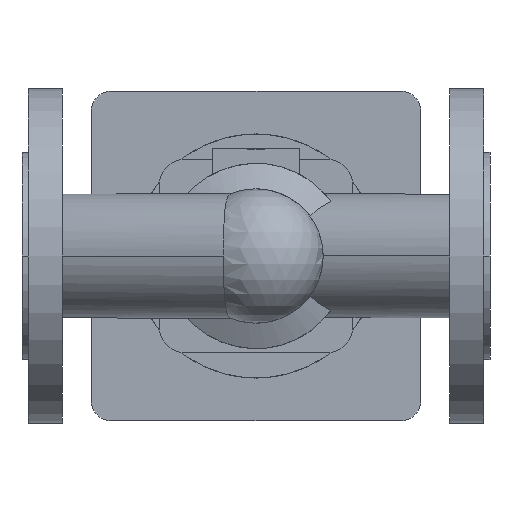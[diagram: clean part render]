
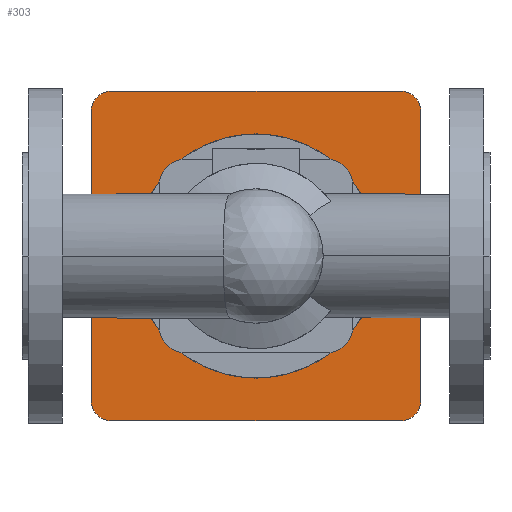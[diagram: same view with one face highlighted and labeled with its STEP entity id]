
A CAD part, front view. The second image highlights one B-rep face of the part: STEP entity #303.
In plain terms, the highlighted planar face has unit normal (0, -1, 0).
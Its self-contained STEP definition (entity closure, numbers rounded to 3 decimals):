
#303 = ADVANCED_FACE( '', ( #729, #730 ), #731, .F. );
#729 = FACE_OUTER_BOUND( '', #1181, .T. );
#730 = FACE_BOUND( '', #1182, .T. );
#731 = PLANE( '', #1183 );
#1181 = EDGE_LOOP( '', ( #2652, #2653, #2654, #2655, #2656, #2657, #2658, #2659 ) );
#1182 = EDGE_LOOP( '', ( #2660, #2661 ) );
#1183 = AXIS2_PLACEMENT_3D( '', #2662, #2663, #2664 );
#2652 = ORIENTED_EDGE( '', *, *, #3283, .F. );
#2653 = ORIENTED_EDGE( '', *, *, #3284, .F. );
#2654 = ORIENTED_EDGE( '', *, *, #3285, .F. );
#2655 = ORIENTED_EDGE( '', *, *, #3286, .F. );
#2656 = ORIENTED_EDGE( '', *, *, #3287, .F. );
#2657 = ORIENTED_EDGE( '', *, *, #3288, .F. );
#2658 = ORIENTED_EDGE( '', *, *, #3289, .F. );
#2659 = ORIENTED_EDGE( '', *, *, #3290, .F. );
#2660 = ORIENTED_EDGE( '', *, *, #3198, .F. );
#2661 = ORIENTED_EDGE( '', *, *, #3291, .F. );
#2662 = CARTESIAN_POINT( '', ( 115., 584., 0. ) );
#2663 = DIRECTION( '', ( 0., 1., 0. ) );
#2664 = DIRECTION( '', ( 0., 0., 1. ) );
#3198 = EDGE_CURVE( '', #3943, #3946, #3947, .T. );
#3283 = EDGE_CURVE( '', #4090, #4091, #4092, .T. );
#3284 = EDGE_CURVE( '', #4093, #4090, #4094, .T. );
#3285 = EDGE_CURVE( '', #4095, #4093, #4096, .T. );
#3286 = EDGE_CURVE( '', #4097, #4095, #4098, .T. );
#3287 = EDGE_CURVE( '', #4099, #4097, #4100, .T. );
#3288 = EDGE_CURVE( '', #4101, #4099, #4102, .T. );
#3289 = EDGE_CURVE( '', #4103, #4101, #4104, .T. );
#3290 = EDGE_CURVE( '', #4091, #4103, #4105, .T. );
#3291 = EDGE_CURVE( '', #3946, #3943, #4106, .T. );
#3943 = VERTEX_POINT( '', #5456 );
#3946 = VERTEX_POINT( '', #5460 );
#3947 = CIRCLE( '', #5461, 40. );
#4090 = VERTEX_POINT( '', #5659 );
#4091 = VERTEX_POINT( '', #5660 );
#4092 = CIRCLE( '', #5661, 10. );
#4093 = VERTEX_POINT( '', #5662 );
#4094 = LINE( '', #5663, #5664 );
#4095 = VERTEX_POINT( '', #5665 );
#4096 = CIRCLE( '', #5666, 10. );
#4097 = VERTEX_POINT( '', #5667 );
#4098 = LINE( '', #5668, #5669 );
#4099 = VERTEX_POINT( '', #5670 );
#4100 = CIRCLE( '', #5671, 10. );
#4101 = VERTEX_POINT( '', #5672 );
#4102 = LINE( '', #5673, #5674 );
#4103 = VERTEX_POINT( '', #5675 );
#4104 = CIRCLE( '', #5676, 10. );
#4105 = LINE( '', #5677, #5678 );
#4106 = CIRCLE( '', #5679, 40. );
#5456 = CARTESIAN_POINT( '', ( 75., 584., 0. ) );
#5460 = CARTESIAN_POINT( '', ( 155., 584., 0. ) );
#5461 = AXIS2_PLACEMENT_3D( '', #6416, #6417, #6418 );
#5659 = CARTESIAN_POINT( '', ( 34., 584., 71. ) );
#5660 = CARTESIAN_POINT( '', ( 44., 584., 81. ) );
#5661 = AXIS2_PLACEMENT_3D( '', #6561, #6562, #6563 );
#5662 = CARTESIAN_POINT( '', ( 34., 584., -71. ) );
#5663 = CARTESIAN_POINT( '', ( 34., 584., -71. ) );
#5664 = VECTOR( '', #6564, 1. );
#5665 = CARTESIAN_POINT( '', ( 44., 584., -81. ) );
#5666 = AXIS2_PLACEMENT_3D( '', #6565, #6566, #6567 );
#5667 = CARTESIAN_POINT( '', ( 186., 584., -81. ) );
#5668 = CARTESIAN_POINT( '', ( 186., 584., -81. ) );
#5669 = VECTOR( '', #6568, 1. );
#5670 = CARTESIAN_POINT( '', ( 196., 584., -71. ) );
#5671 = AXIS2_PLACEMENT_3D( '', #6569, #6570, #6571 );
#5672 = CARTESIAN_POINT( '', ( 196., 584., 71. ) );
#5673 = CARTESIAN_POINT( '', ( 196., 584., 71. ) );
#5674 = VECTOR( '', #6572, 1. );
#5675 = CARTESIAN_POINT( '', ( 186., 584., 81. ) );
#5676 = AXIS2_PLACEMENT_3D( '', #6573, #6574, #6575 );
#5677 = CARTESIAN_POINT( '', ( 44., 584., 81. ) );
#5678 = VECTOR( '', #6576, 1. );
#5679 = AXIS2_PLACEMENT_3D( '', #6577, #6578, #6579 );
#6416 = CARTESIAN_POINT( '', ( 115., 584., 0. ) );
#6417 = DIRECTION( '', ( 0., -1., 0. ) );
#6418 = DIRECTION( '', ( -1., 0., 0. ) );
#6561 = CARTESIAN_POINT( '', ( 44., 584., 71. ) );
#6562 = DIRECTION( '', ( 0., 1., 0. ) );
#6563 = DIRECTION( '', ( -1., 0., 0. ) );
#6564 = DIRECTION( '', ( 0., 0., 1. ) );
#6565 = CARTESIAN_POINT( '', ( 44., 584., -71. ) );
#6566 = DIRECTION( '', ( 0., 1., 0. ) );
#6567 = DIRECTION( '', ( 0., 0., -1. ) );
#6568 = DIRECTION( '', ( -1., 0., 0. ) );
#6569 = CARTESIAN_POINT( '', ( 186., 584., -71. ) );
#6570 = DIRECTION( '', ( 0., 1., 0. ) );
#6571 = DIRECTION( '', ( 1., 0., 0. ) );
#6572 = DIRECTION( '', ( 0., 0., -1. ) );
#6573 = CARTESIAN_POINT( '', ( 186., 584., 71. ) );
#6574 = DIRECTION( '', ( 0., 1., 0. ) );
#6575 = DIRECTION( '', ( 0., 0., 1. ) );
#6576 = DIRECTION( '', ( 1., 0., 0. ) );
#6577 = CARTESIAN_POINT( '', ( 115., 584., 0. ) );
#6578 = DIRECTION( '', ( 0., -1., 0. ) );
#6579 = DIRECTION( '', ( -1., 0., 0. ) );
